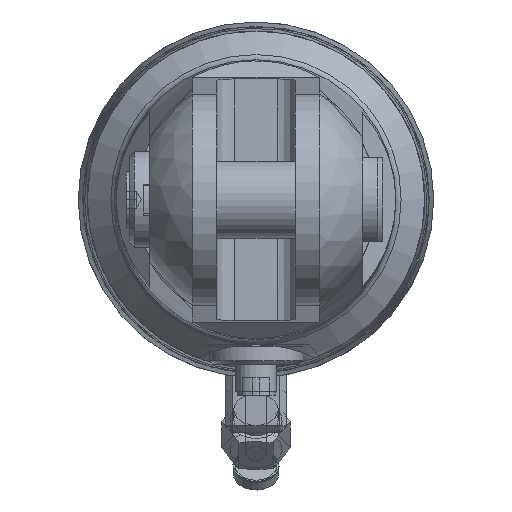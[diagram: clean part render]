
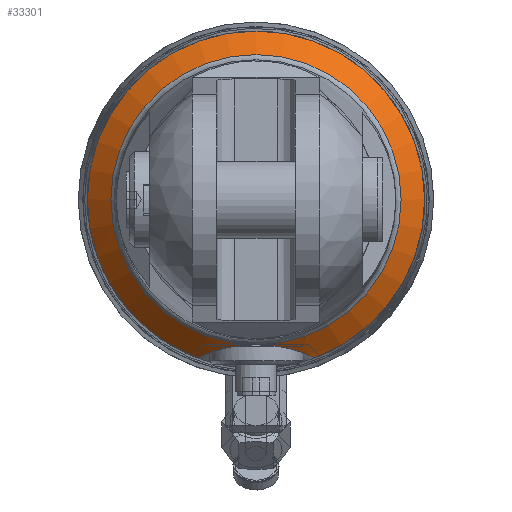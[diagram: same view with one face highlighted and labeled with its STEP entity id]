
A CAD part, left-side view. The second image highlights one B-rep face of the part: STEP entity #33301.
In plain terms, the highlighted conical face has half-angle 45.647 degrees and reference radius 45.118 mm.
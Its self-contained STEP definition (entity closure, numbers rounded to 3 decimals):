
#1785=B_SPLINE_CURVE_WITH_KNOTS('',3,(#61507,#61508,#61509,#61510,#61511,
#61512,#61513,#61514,#61515,#61516,#61517,#61518),.UNSPECIFIED.,.F.,.F.,
(4,2,2,2,2,4),(2.423,2.798,3.158,3.518,
3.878,4.238),.UNSPECIFIED.);
#1788=B_SPLINE_CURVE_WITH_KNOTS('',3,(#61566,#61567,#61568,#61569,#61570,
#61571,#61572,#61573,#61574,#61575,#61576,#61577),.UNSPECIFIED.,.F.,.F.,
(4,2,2,2,2,4),(4.238,4.598,4.958,5.318,
5.679,6.053),.UNSPECIFIED.);
#1925=CONICAL_SURFACE('',#34777,45.118,0.797);
#4709=FACE_OUTER_BOUND('',#6593,.T.);
#6593=EDGE_LOOP('',(#29316,#29317,#29318,#29319,#29320));
#12927=CIRCLE('',#34776,48.5);
#12928=CIRCLE('',#34778,41.737);
#12929=CIRCLE('',#34779,41.737);
#15877=VERTEX_POINT('',#61400);
#15914=VERTEX_POINT('',#61506);
#15916=VERTEX_POINT('',#61543);
#15921=VERTEX_POINT('',#61627);
#20413=EDGE_CURVE('',#15914,#15877,#1785,.T.);
#20416=EDGE_CURVE('',#15877,#15916,#1788,.T.);
#20422=EDGE_CURVE('',#15914,#15916,#12927,.T.);
#20424=EDGE_CURVE('',#15877,#15921,#12928,.T.);
#20425=EDGE_CURVE('',#15921,#15877,#12929,.T.);
#29316=ORIENTED_EDGE('',*,*,#20416,.T.);
#29317=ORIENTED_EDGE('',*,*,#20422,.F.);
#29318=ORIENTED_EDGE('',*,*,#20413,.T.);
#29319=ORIENTED_EDGE('',*,*,#20424,.T.);
#29320=ORIENTED_EDGE('',*,*,#20425,.T.);
#33301=ADVANCED_FACE('',(#4709),#1925,.T.);
#34776=AXIS2_PLACEMENT_3D('',#61608,#40484,#40485);
#34777=AXIS2_PLACEMENT_3D('',#61626,#40486,#40487);
#34778=AXIS2_PLACEMENT_3D('',#61628,#40488,#40489);
#34779=AXIS2_PLACEMENT_3D('',#61629,#40490,#40491);
#40484=DIRECTION('center_axis',(1.,0.,0.));
#40485=DIRECTION('ref_axis',(0.,0.,
1.));
#40486=DIRECTION('center_axis',(1.,0.,0.));
#40487=DIRECTION('ref_axis',(0.,0.,
1.));
#40488=DIRECTION('center_axis',(1.,0.,0.));
#40489=DIRECTION('ref_axis',(0.,0.,
1.));
#40490=DIRECTION('center_axis',(1.,0.,0.));
#40491=DIRECTION('ref_axis',(0.,0.,
1.));
#61400=CARTESIAN_POINT('',(-3004.332,0.,-41.737));
#61506=CARTESIAN_POINT('',(-2997.72,16.787,-45.502));
#61507=CARTESIAN_POINT('Ctrl Pts',(-2997.72,16.787,-45.502));
#61508=CARTESIAN_POINT('Ctrl Pts',(-2998.475,15.869,-45.018));
#61509=CARTESIAN_POINT('Ctrl Pts',(-2999.186,14.916,-44.578));
#61510=CARTESIAN_POINT('Ctrl Pts',(-3000.473,12.98,-43.808));
#61511=CARTESIAN_POINT('Ctrl Pts',(-3001.089,11.945,-43.454));
#61512=CARTESIAN_POINT('Ctrl Pts',(-3002.202,9.742,-42.833));
#61513=CARTESIAN_POINT('Ctrl Pts',(-3002.699,8.575,-42.568));
#61514=CARTESIAN_POINT('Ctrl Pts',(-3003.509,6.168,-42.146));
#61515=CARTESIAN_POINT('Ctrl Pts',(-3003.822,4.927,-41.989));
#61516=CARTESIAN_POINT('Ctrl Pts',(-3004.234,2.443,-41.784));
#61517=CARTESIAN_POINT('Ctrl Pts',(-3004.332,1.2,-41.737));
#61518=CARTESIAN_POINT('Ctrl Pts',(-3004.332,0.,
-41.737));
#61543=CARTESIAN_POINT('',(-2997.72,-16.787,-45.502));
#61566=CARTESIAN_POINT('Ctrl Pts',(-3004.332,0.,
-41.737));
#61567=CARTESIAN_POINT('Ctrl Pts',(-3004.332,-1.2,
-41.737));
#61568=CARTESIAN_POINT('Ctrl Pts',(-3004.234,-2.443,-41.784));
#61569=CARTESIAN_POINT('Ctrl Pts',(-3003.822,-4.927,
-41.989));
#61570=CARTESIAN_POINT('Ctrl Pts',(-3003.509,-6.168,
-42.146));
#61571=CARTESIAN_POINT('Ctrl Pts',(-3002.699,-8.575,
-42.568));
#61572=CARTESIAN_POINT('Ctrl Pts',(-3002.202,-9.742,
-42.833));
#61573=CARTESIAN_POINT('Ctrl Pts',(-3001.089,-11.945,-43.454));
#61574=CARTESIAN_POINT('Ctrl Pts',(-3000.473,-12.98,
-43.808));
#61575=CARTESIAN_POINT('Ctrl Pts',(-2999.186,-14.916,
-44.578));
#61576=CARTESIAN_POINT('Ctrl Pts',(-2998.475,-15.869,
-45.018));
#61577=CARTESIAN_POINT('Ctrl Pts',(-2997.72,-16.787,-45.502));
#61608=CARTESIAN_POINT('Origin',(-2997.72,0.,0.));
#61626=CARTESIAN_POINT('Origin',(-3001.026,0.,
0.));
#61627=CARTESIAN_POINT('',(-3004.332,41.737,0.));
#61628=CARTESIAN_POINT('Origin',(-3004.332,0.,
0.));
#61629=CARTESIAN_POINT('Origin',(-3004.332,0.,
0.));
